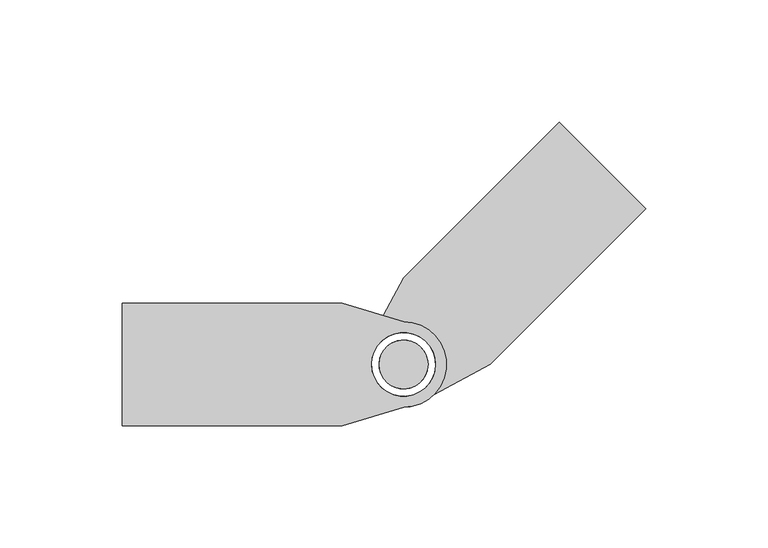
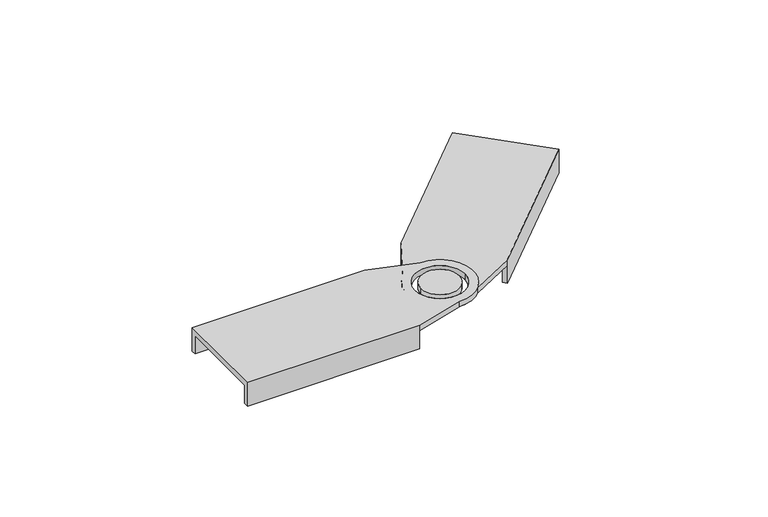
"""IFC4 building model written with IfcOpenShell, lengths in millimetres: cable carrier fitting geometry, BAKS_LD_BEND_Articulated connector_LG : LGT_H45."""

from ifc_helpers import new_model, si_unit, frame, origin, place, context, project, spatial, polyline, circle_curve, source, transform, mapped, element, save
from ifc_brep_helpers import plane_surface, cylinder_surface, revolved_surface, advanced_brep


def cable_carrier_fitting_87479157(model_context):
    return source(origin(), model_context, "Body", "AdvancedBrep", [
        advanced_brep(
        [(-115.0, 25.0, 3.0), (-115.0, -25.0, 3.0), (-25.0, -25.0, 3.0), (0.0, -17.5, 3.0), (0.0, 17.5, 3.0), (-25.0, 25.0, 3.0), (13.0, 0.0, 3.0), (-13.0, 0.0, 3.0), (-25.0, -25.0, 0.0), (-25.0, -22.5, 0.0), (-115.0, -22.5, 0.0), (-115.0, 22.5, 0.0), (-25.0, 22.5, 0.0), (-25.0, 25.0, 0.0), (0.0, 17.5, 0.0), (0.0, -17.5, 0.0), (-13.0, 0.0, 0.0), (13.0, 0.0, 0.0), (-25.0, 25.0, -10.0), (-115.0, 25.0, -10.0), (-115.0, -25.0, -10.0), (-25.0, -25.0, -10.0), (-115.0, 22.5, -10.0), (-115.0, -22.5, -10.0), (-25.0, -22.5, -10.0), (-25.0, 22.5, -10.0)],
        [
            (0, 1),
            (1, 2),
            (2, 3),
            (3, 4, circle_curve(frame((0.0, 0.0, 3.0), z_axis=(0.0, 0.0, 1.0), x_axis=(-1.0, 0.0, 0.0)), 17.5)),
            (4, 5),
            (5, 0),
            (6, 7, circle_curve(frame((0.0, 0.0, 3.0), z_axis=(0.0, 0.0, -1.0), x_axis=(-1.0, 0.0, 0.0)), 13.0)),
            (7, 6, circle_curve(frame((0.0, 0.0, 3.0), z_axis=(0.0, 0.0, -1.0), x_axis=(-1.0, 0.0, 0.0)), 13.0)),
            (8, 9),
            (9, 10),
            (10, 11),
            (11, 12),
            (12, 13),
            (13, 14),
            (14, 15, circle_curve(frame((0.0, 0.0, 0.0), z_axis=(0.0, 0.0, -1.0), x_axis=(-1.0, 0.0, 0.0)), 17.5)),
            (15, 8),
            (16, 17, circle_curve(frame((0.0, 0.0, 0.0), z_axis=(0.0, 0.0, 1.0), x_axis=(-1.0, 0.0, 0.0)), 13.0)),
            (17, 16, circle_curve(frame((0.0, 0.0, 0.0), z_axis=(0.0, 0.0, 1.0), x_axis=(-1.0, 0.0, 0.0)), 13.0)),
            (5, 13),
            (13, 18),
            (18, 19),
            (19, 0),
            (1, 20),
            (20, 21),
            (21, 8),
            (8, 2),
            (19, 22),
            (22, 11),
            (10, 23),
            (23, 20),
            (7, 16),
            (17, 6),
            (4, 14),
            (3, 15),
            (23, 24),
            (24, 21),
            (9, 24),
            (18, 25),
            (25, 22),
            (12, 25),
        ],
        [
            plane_surface(frame((-25.0, 25.0, 3.0), z_axis=(0.0, 0.0, 1.0), x_axis=(1.0, 0.0, 0.0))),
            plane_surface(frame((-25.0, 25.0, 0.0), z_axis=(0.0, 0.0, -1.0), x_axis=(-1.0, 0.0, 0.0))),
            plane_surface(frame((-115.0, 25.0, 3.0), z_axis=(0.0, 1.0, 0.0), x_axis=(0.0, 0.0, -1.0))),
            plane_surface(frame((-25.0, -25.0, 3.0), z_axis=(0.0, -1.0, 0.0), x_axis=(0.0, 0.0, -1.0))),
            plane_surface(frame((-115.0, -25.0, 3.0), z_axis=(-1.0, 0.0, 0.0), x_axis=(0.0, 0.0, -1.0))),
            revolved_surface(polyline([(-13.0, 0.0, 3.0), (-13.0, 0.0, 0.0)]), (0.0, 0.0, 0.0), (0.0, 0.0, 1.0)),
            plane_surface(frame((-25.0, 25.0, 3.0), z_axis=(0.28734788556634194, 0.9578262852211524, 0.0), x_axis=(0.0, 0.0, -1.0))),
            cylinder_surface(frame((0.0, 0.0, 0.0), z_axis=(0.0, 0.0, 1.0), x_axis=(-1.0, 0.0, 0.0)), 17.5),
            plane_surface(frame((0.0, -17.5, 3.0), z_axis=(0.2873478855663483, -0.9578262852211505, 0.0), x_axis=(0.0, 0.0, -1.0))),
            plane_surface(frame((-25.0, -22.5, -10.0), z_axis=(0.0, 0.0, -1.0), x_axis=(-1.0, 0.0, 0.0))),
            plane_surface(frame((-115.0, -22.5, 0.0), z_axis=(0.0, 1.0, 0.0), x_axis=(0.0, 0.0, -1.0))),
            plane_surface(frame((-25.0, -22.5, 0.0), z_axis=(1.0, 0.0, 0.0), x_axis=(0.0, 0.0, -1.0))),
            plane_surface(frame((-25.0, 25.0, -10.0), z_axis=(0.0, 0.0, -1.0), x_axis=(-1.0, 0.0, 0.0))),
            plane_surface(frame((-25.0, 25.0, 0.0), z_axis=(1.0, 0.0, 0.0), x_axis=(0.0, 0.0, -1.0))),
            plane_surface(frame((-25.0, 22.5, 0.0), z_axis=(0.0, -1.0, 0.0), x_axis=(0.0, 0.0, -1.0))),
        ],
        [
            (0, [[1, 2, 3, 4, 5, 6], [7, 8]]),
            (1, [[9, 10, 11, 12, 13, 14, 15, 16], [17, 18]]),
            (2, [[19, 20, 21, 22, -6]]),
            (3, [[23, 24, 25, 26, -2]]),
            (4, [[27, 28, -11, 29, 30, -23, -1, -22]]),
            (5, [[-8, 31, -18, 32]]),
            (5, [[-17, -31, -7, -32]]),
            (6, [[33, -14, -19, -5]]),
            (7, [[34, -15, -33, -4]]),
            (8, [[-26, -16, -34, -3]]),
            (9, [[35, 36, -24, -30]]),
            (10, [[-29, -10, 37, -35]]),
            (11, [[-37, -9, -25, -36]]),
            (12, [[-21, 38, 39, -27]]),
            (13, [[-20, -13, 40, -38]]),
            (14, [[-40, -12, -28, -39]]),
        ],
    ),
        advanced_brep(
        [(10.0, 0.0, 3.0), (-10.0, 0.0, 3.0), (-10.0, 0.0, 0.0), (10.0, 0.0, 0.0)],
        [
            (0, 1, circle_curve(frame((0.0, 0.0, 3.0), z_axis=(0.0, 0.0, 1.0), x_axis=(-1.0, 0.0, 0.0)), 10.0)),
            (1, 0, circle_curve(frame((0.0, 0.0, 3.0), z_axis=(0.0, 0.0, 1.0), x_axis=(-1.0, 0.0, 0.0)), 10.0)),
            (2, 3, circle_curve(frame((0.0, 0.0, 0.0), z_axis=(0.0, 0.0, -1.0), x_axis=(-1.0, 0.0, 0.0)), 10.0)),
            (3, 2, circle_curve(frame((0.0, 0.0, 0.0), z_axis=(0.0, 0.0, -1.0), x_axis=(-1.0, 0.0, 0.0)), 10.0)),
            (1, 2),
            (3, 0),
        ],
        [
            plane_surface(frame((-25.0, 25.0, 3.0), z_axis=(0.0, 0.0, 1.0), x_axis=(1.0, 0.0, 0.0))),
            plane_surface(frame((-25.0, 25.0, 0.0), z_axis=(0.0, 0.0, -1.0), x_axis=(-1.0, 0.0, 0.0))),
            cylinder_surface(frame((0.0, 0.0, 0.0), z_axis=(0.0, 0.0, -1.0), x_axis=(-1.0, 0.0, 0.0)), 10.0),
        ],
        [
            (0, [[1, 2]]),
            (1, [[3, 4]]),
            (2, [[-2, 5, -4, 6]]),
            (2, [[-3, -5, -1, -6]]),
        ],
    ),
        advanced_brep(
        [(63.6396103, 98.9949494, 3.0), (0.0, 35.3553391, 3.0), (-12.3743687, 12.3743687, 3.0), (12.3743687, -12.3743687, 3.0), (35.3553391, 0.0, 3.0), (98.9949494, 63.6396103, 3.0), (-9.1923882, -9.1923882, 3.0), (9.1923882, 9.1923882, 3.0), (35.3553391, 0.0, 0.0), (12.3743687, -12.3743687, 0.0), (-12.3743687, 12.3743687, 0.0), (0.0, 35.3553391, 0.0), (1.767767, 33.5875721, 0.0), (65.4073773, 97.2271824, 0.0), (97.2271824, 65.4073773, 0.0), (33.5875721, 1.767767, 0.0), (9.1923882, 9.1923882, 0.0), (-9.1923882, -9.1923882, 0.0), (63.6396103, 98.9949494, -10.0), (0.0, 35.3553391, -10.0), (35.3553391, 0.0, -10.0), (98.9949494, 63.6396103, -10.0), (97.2271824, 65.4073773, -10.0), (65.4073773, 97.2271824, -10.0), (33.5875721, 1.767767, -10.0), (1.767767, 33.5875721, -10.0)],
        [
            (0, 1),
            (1, 2),
            (2, 3, circle_curve(frame((0.0, 0.0, 3.0), z_axis=(0.0, 0.0, 1.0), x_axis=(0.7071067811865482, 0.7071067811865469, 0.0)), 17.5)),
            (3, 4),
            (4, 5),
            (5, 0),
            (6, 7, circle_curve(frame((0.0, 0.0, 3.0), z_axis=(0.0, 0.0, -1.0), x_axis=(0.7071067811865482, 0.7071067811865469, 0.0)), 13.0)),
            (7, 6, circle_curve(frame((0.0, 0.0, 3.0), z_axis=(0.0, 0.0, -1.0), x_axis=(0.7071067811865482, 0.7071067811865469, 0.0)), 13.0)),
            (8, 9),
            (9, 10, circle_curve(frame((0.0, 0.0, 0.0), z_axis=(0.0, 0.0, -1.0), x_axis=(0.7071067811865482, 0.7071067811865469, 0.0)), 17.5)),
            (10, 11),
            (11, 12),
            (12, 13),
            (13, 14),
            (14, 15),
            (15, 8),
            (16, 17, circle_curve(frame((0.0, 0.0, 0.0), z_axis=(0.0, 0.0, 1.0), x_axis=(0.7071067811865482, 0.7071067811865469, 0.0)), 13.0)),
            (17, 16, circle_curve(frame((0.0, 0.0, 0.0), z_axis=(0.0, 0.0, 1.0), x_axis=(0.7071067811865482, 0.7071067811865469, 0.0)), 13.0)),
            (0, 18),
            (18, 19),
            (19, 11),
            (11, 1),
            (4, 8),
            (8, 20),
            (20, 21),
            (21, 5),
            (21, 22),
            (22, 14),
            (13, 23),
            (23, 18),
            (6, 17),
            (16, 7),
            (10, 2),
            (9, 3),
            (20, 24),
            (24, 22),
            (24, 15),
            (23, 25),
            (25, 19),
            (25, 12),
        ],
        [
            plane_surface(frame((0.0, 35.3553391, 3.0), z_axis=(0.0, 0.0, 1.0), x_axis=(-0.7071067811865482, -0.7071067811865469, 0.0))),
            plane_surface(frame((0.0, 35.3553391, 0.0), z_axis=(0.0, 0.0, -1.0), x_axis=(0.7071067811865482, 0.7071067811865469, 0.0))),
            plane_surface(frame((63.6396103, 98.9949494, 3.0), z_axis=(-0.7071067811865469, 0.7071067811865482, 0.0), x_axis=(0.0, 0.0, -1.0))),
            plane_surface(frame((35.3553391, 0.0, 3.0), z_axis=(0.7071067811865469, -0.7071067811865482, 0.0), x_axis=(0.0, 0.0, -1.0))),
            plane_surface(frame((98.9949494, 63.6396103, 3.0), z_axis=(0.7071067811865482, 0.7071067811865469, 0.0), x_axis=(0.0, 0.0, -1.0))),
            revolved_surface(polyline([(9.192388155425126, 9.19238815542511, 3.0), (9.192388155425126, 9.19238815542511, 0.0)]), (0.0, 0.0, 0.0), (0.0, 0.0, 1.0)),
            plane_surface(frame((0.0, 35.3553391, 3.0), z_axis=(-0.8804710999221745, 0.47409982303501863, 0.0), x_axis=(0.0, 0.0, -1.0))),
            cylinder_surface(frame((0.0, 0.0, 0.0), z_axis=(0.0, 0.0, 1.0), x_axis=(0.7071067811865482, 0.7071067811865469, 0.0)), 17.5),
            plane_surface(frame((12.3743687, -12.3743687, 3.0), z_axis=(0.4740998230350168, -0.8804710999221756, 0.0), x_axis=(0.0, 0.0, -1.0))),
            plane_surface(frame((33.5875721, 1.767767, -10.0), z_axis=(0.0, 0.0, -1.0), x_axis=(0.7071067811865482, 0.7071067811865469, 0.0))),
            plane_surface(frame((97.2271824, 65.4073773, 0.0), z_axis=(-0.7071067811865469, 0.7071067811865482, 0.0), x_axis=(0.0, 0.0, -1.0))),
            plane_surface(frame((33.5875721, 1.767767, 0.0), z_axis=(-0.7071067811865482, -0.7071067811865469, 0.0), x_axis=(0.0, 0.0, -1.0))),
            plane_surface(frame((0.0, 35.3553391, -10.0), z_axis=(0.0, 0.0, -1.0), x_axis=(0.7071067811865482, 0.7071067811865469, 0.0))),
            plane_surface(frame((0.0, 35.3553391, 0.0), z_axis=(-0.7071067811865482, -0.7071067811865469, 0.0), x_axis=(0.0, 0.0, -1.0))),
            plane_surface(frame((1.767767, 33.5875721, 0.0), z_axis=(0.7071067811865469, -0.7071067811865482, 0.0), x_axis=(0.0, 0.0, -1.0))),
        ],
        [
            (0, [[1, 2, 3, 4, 5, 6], [7, 8]]),
            (1, [[9, 10, 11, 12, 13, 14, 15, 16], [17, 18]]),
            (2, [[-1, 19, 20, 21, 22]]),
            (3, [[-5, 23, 24, 25, 26]]),
            (4, [[-19, -6, -26, 27, 28, -14, 29, 30]]),
            (5, [[31, -17, 32, -7]]),
            (5, [[-31, -8, -32, -18]]),
            (6, [[-2, -22, -11, 33]]),
            (7, [[-3, -33, -10, 34]]),
            (8, [[-4, -34, -9, -23]]),
            (9, [[-27, -25, 35, 36]]),
            (10, [[-36, 37, -15, -28]]),
            (11, [[-35, -24, -16, -37]]),
            (12, [[-30, 38, 39, -20]]),
            (13, [[-39, 40, -12, -21]]),
            (14, [[-38, -29, -13, -40]]),
        ],
    ),
        advanced_brep(
        [(-7.0710678, -7.0710678, 3.0), (7.0710678, 7.0710678, 3.0), (7.0710678, 7.0710678, 0.0), (-7.0710678, -7.0710678, 0.0)],
        [
            (0, 1, circle_curve(frame((0.0, 0.0, 3.0), z_axis=(0.0, 0.0, 1.0), x_axis=(0.7071067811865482, 0.7071067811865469, 0.0)), 10.0)),
            (1, 0, circle_curve(frame((0.0, 0.0, 3.0), z_axis=(0.0, 0.0, 1.0), x_axis=(0.7071067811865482, 0.7071067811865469, 0.0)), 10.0)),
            (2, 3, circle_curve(frame((0.0, 0.0, 0.0), z_axis=(0.0, 0.0, -1.0), x_axis=(0.7071067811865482, 0.7071067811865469, 0.0)), 10.0)),
            (3, 2, circle_curve(frame((0.0, 0.0, 0.0), z_axis=(0.0, 0.0, -1.0), x_axis=(0.7071067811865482, 0.7071067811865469, 0.0)), 10.0)),
            (0, 3),
            (2, 1),
        ],
        [
            plane_surface(frame((0.0, 35.3553391, 3.0), z_axis=(0.0, 0.0, 1.0), x_axis=(-0.7071067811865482, -0.7071067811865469, 0.0))),
            plane_surface(frame((0.0, 35.3553391, 0.0), z_axis=(0.0, 0.0, -1.0), x_axis=(0.7071067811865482, 0.7071067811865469, 0.0))),
            cylinder_surface(frame((0.0, 0.0, 0.0), z_axis=(0.0, 0.0, -1.0), x_axis=(0.7071067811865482, 0.7071067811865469, 0.0)), 10.0),
        ],
        [
            (0, [[1, 2]]),
            (1, [[3, 4]]),
            (2, [[5, -3, 6, -1]]),
            (2, [[-5, -2, -6, -4]]),
        ],
    ),
    ])


if __name__ == "__main__":
    model = new_model("IFC4")
    model_context = context("Model", 3, world=origin())
    ifc_project = project(units=[si_unit("LENGTHUNIT", "METRE", prefix="MILLI")], contexts=[model_context])
    site = spatial("IfcSite", under=ifc_project)
    building = spatial("IfcBuilding", under=site)
    placement = place(None, origin())
    cable_carrier_fitting_shape = cable_carrier_fitting_87479157(model_context)
    element("IfcCableCarrierFitting", 1, ObjectType="BAKS_LD_BEND_Articulated connector_LG : LGT_H45", at=placement, inside=building, context=model_context, shape_type="MappedRepresentation", body=[
        mapped(cable_carrier_fitting_shape, transform((0.0, 0.0, 0.0), x_axis=(1.0, 0.0, 0.0), y_axis=(0.0, 1.0, 0.0), z_axis=(0.0, 0.0, 1.0))),
    ])
    save(model, "model.ifc")
